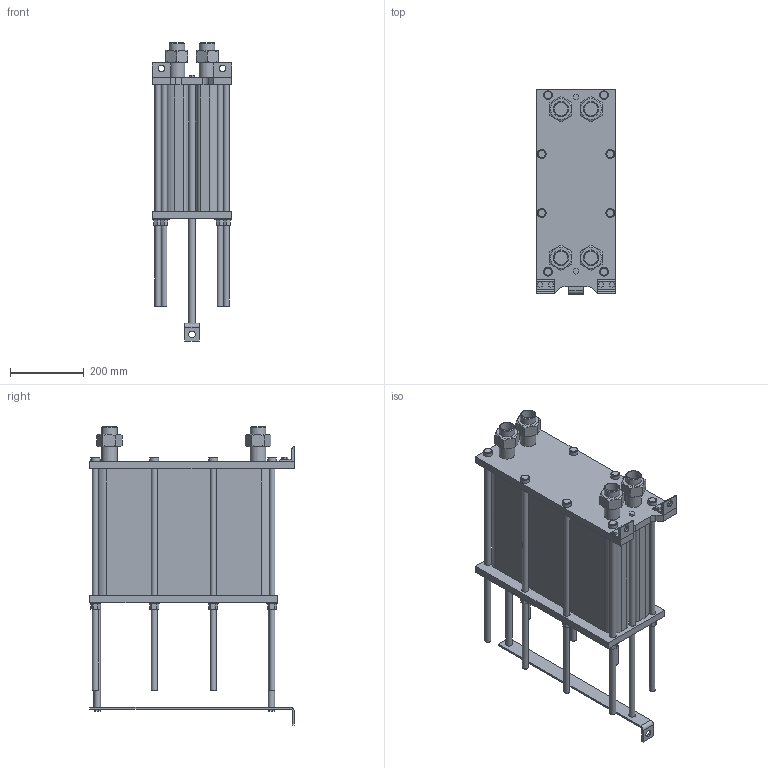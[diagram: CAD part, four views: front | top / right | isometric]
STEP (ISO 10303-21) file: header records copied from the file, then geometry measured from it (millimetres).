
FILE_DESCRIPTION(/* description */ (''),/* implementation_level */ '2;1');
FILE_NAME(/* name */ 'C:\Users\zhuro\Desktop\ENCO\TO\ЭН-004\ЭН-0,5-004-111-1.stp',/* time_stamp */ '2022-06-06T10:53:36+03:00',/* author */ ('zhuro'),/* organization */ (''),/* preprocessor_version */ 'ST-DEVELOPER v18.1',/* originating_system */ 'Autodesk Inventor 2022',/* authorisation */ '');
FILE_SCHEMA (('AUTOMOTIVE_DESIGN { 1 0 10303 214 3 1 1 }'));
Length unit declared in the file: millimetre
Products named in the file (1): ЭН-0,5-004-111-1
Bounding box: 216 x 555 x 809.8 mm (x, y, z)
Volume: 31599334.1 mm3; surface area: 1703679 mm2
Topology: 40 solids, 40 shells, 403 faces, 865 edges, 574 vertices
Faces by surface type: plane 272, cylinder 103, cone 28
Full cylindrical faces by diameter (mm): 10 x4, 16 x16, 18 x29, 20 x2, 24 x8, 28 x8, 36.3 x5, 42.3 x9
Entity records: 11137 total; most frequent: CARTESIAN_POINT 1939, DIRECTION 1879, ORIENTED_EDGE 1730, EDGE_CURVE 865, AXIS2_PLACEMENT_3D 658, VERTEX_POINT 574, LINE 563, VECTOR 563
